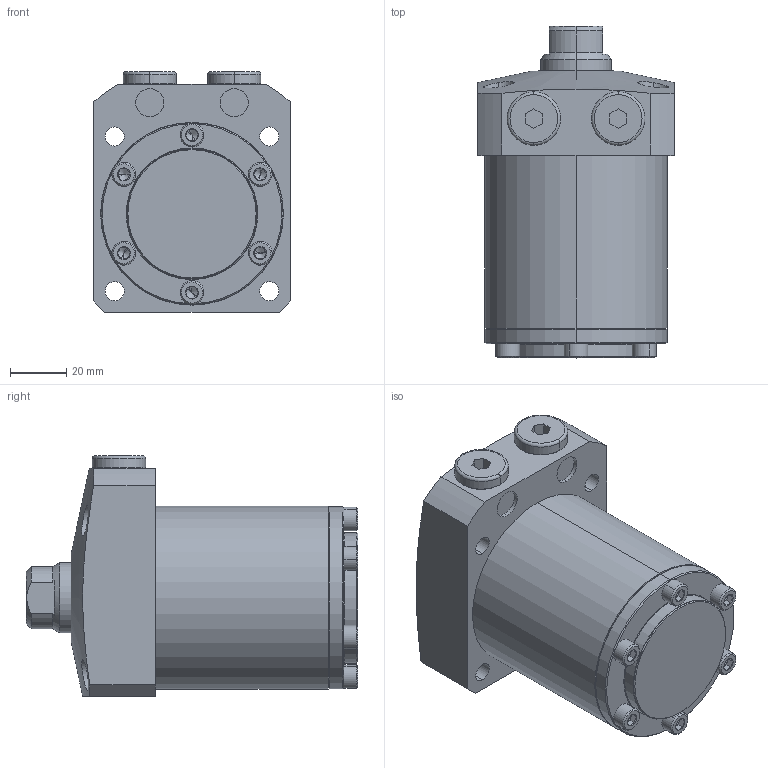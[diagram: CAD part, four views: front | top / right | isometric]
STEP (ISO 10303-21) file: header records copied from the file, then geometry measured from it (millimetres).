
FILE_DESCRIPTION (( 'STEP AP203' ), '1' );
FILE_NAME ('680650-CA-055.step', '2016-11-02T03:25:24', ( 'wxp' ), ( '' ), 'SwSTEP 2.0', 'SolidWorks 2011', '' );
FILE_SCHEMA (( 'CONFIG_CONTROL_DESIGN' ));
Length unit declared in the file: millimetre
Products named in the file (6): 680650-CA-055; 葩璃 68065-CA-15-5^680650-CA-055; 葩璃 68065-CA-15-4^680650-CA-055; 葩璃 68065-CA-15-3^680650-CA-055; 葩璃 68065-CA-55-2^680650-CA-055; 葩璃 68065-CA-55-1^680650-CA-055
Assembly tree (11 placements, depth 2):
  680650-CA-055
    葩璃 68065-CA-55-1^680650-CA-055
    葩璃 68065-CA-15-5^680650-CA-055  x2
    葩璃 68065-CA-15-4^680650-CA-055  x6
    葩璃 68065-CA-15-3^680650-CA-055
    葩璃 68065-CA-55-2^680650-CA-055
Bounding box: 70 x 118 x 85.5 mm (x, y, z)
Volume: 400510.7 mm3; surface area: 56694 mm2
Topology: 11 solids, 11 shells, 345 faces, 675 edges, 370 vertices
Faces by surface type: plane 140, cone 96, cylinder 93, torus 16
Entity records: 5712 total; most frequent: CARTESIAN_POINT 1221, DIRECTION 859, ORIENTED_EDGE 698, AXIS2_PLACEMENT_3D 360, EDGE_CURVE 349, VERTEX_POINT 213, EDGE_LOOP 202, CIRCLE 182
